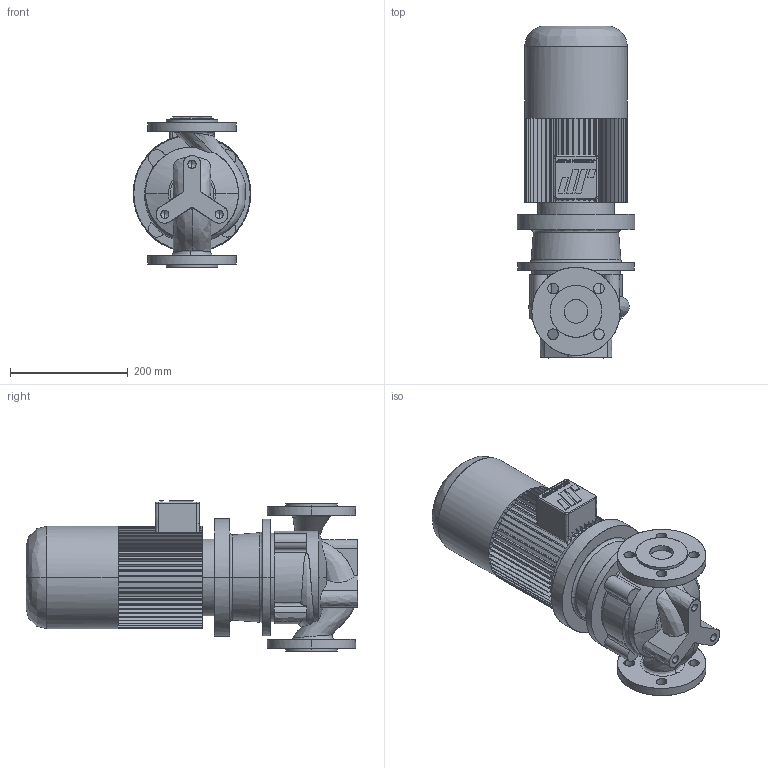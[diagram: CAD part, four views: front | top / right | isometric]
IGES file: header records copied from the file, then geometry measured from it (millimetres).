
Start section: CombiLine
Global section: file name: CLB_40-125_IEC90L_ND10.igs; native system:  By UGS Corp.; preprocessor: XPlus GENERIC/IGES 3.0; author: Stageplaats; organization: Johnson Pump Water B.V.; date: 20070716.101429; units: millimetre
Bounding box: 200 x 564 x 255 mm (x, y, z)
Surface area: 638922.5 mm2 (no closed solid volume)
Topology: 0 solids, 0 shells, 516 faces, 3141 edges, 3135 vertices
Faces by surface type: bspline 516
